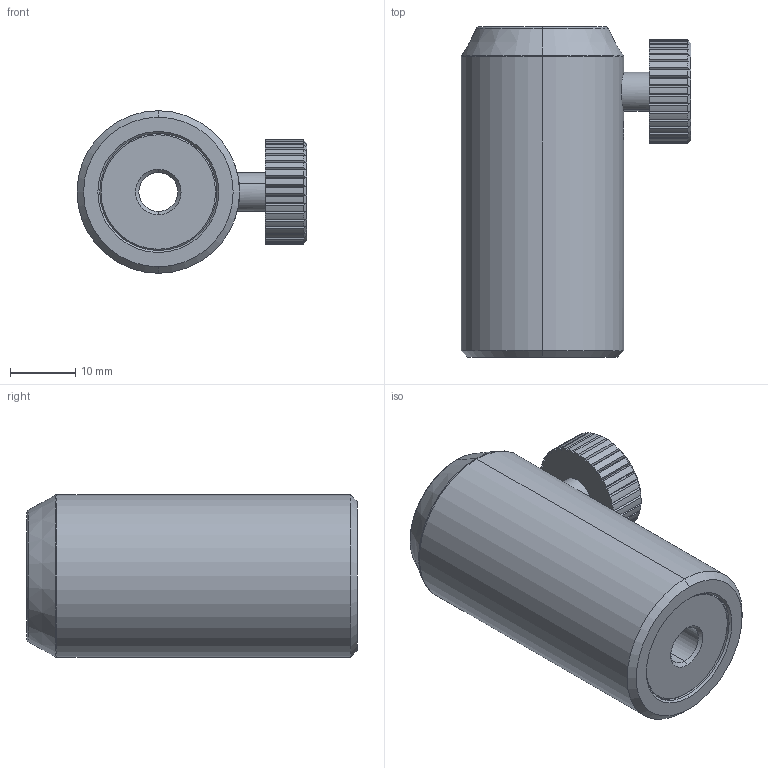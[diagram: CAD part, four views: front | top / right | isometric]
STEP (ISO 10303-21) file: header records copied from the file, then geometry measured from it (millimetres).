
FILE_DESCRIPTION (( 'STEP AP203' ), '1' );
FILE_NAME ('M-PH-2.STEP', '2020-07-23T00:46:25', ( '' ), ( '' ), 'SwSTEP 2.0', 'SolidWorks 2019', '' );
FILE_SCHEMA (( 'CONFIG_CONTROL_DESIGN' ));
Length unit declared in the file: millimetre
Products named in the file (1): M-PH-2
Bounding box: 35.36 x 50.8 x 25 mm (x, y, z)
Volume: 19623 mm3; surface area: 8131.1 mm2
Topology: 2 solids, 5 shells, 213 faces, 564 edges, 368 vertices
Faces by surface type: plane 112, cylinder 75, cone 16, torus 4, sphere 4, bspline 2
Entity records: 8985 total; most frequent: CARTESIAN_POINT 3704, ORIENTED_EDGE 1110, DIRECTION 1050, EDGE_CURVE 555, AXIS2_PLACEMENT_3D 385, VERTEX_POINT 363, VECTOR 280, LINE 280
